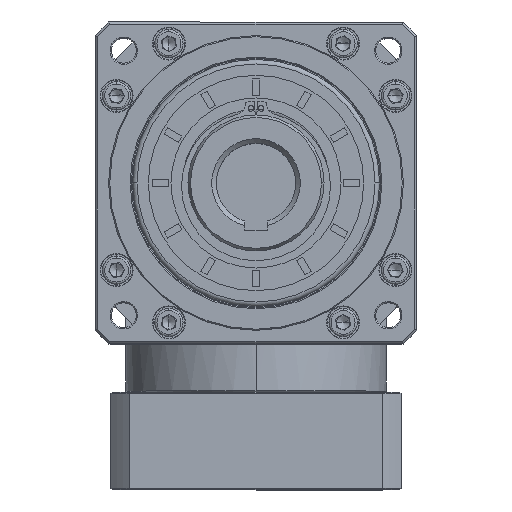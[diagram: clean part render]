
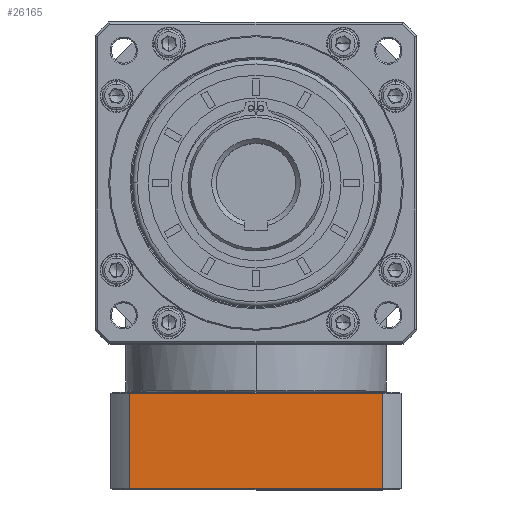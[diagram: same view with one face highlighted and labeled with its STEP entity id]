
A CAD part, top view. The second image highlights one B-rep face of the part: STEP entity #26165.
In plain terms, the highlighted planar face has unit normal (0, 0, 1).
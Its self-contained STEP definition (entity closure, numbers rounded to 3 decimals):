
#3365 = DIRECTION ( 'NONE',  ( 1., 0., 0. ) ) ;
#4269 = CARTESIAN_POINT ( 'NONE',  ( -143.052, 89.914, 7.874 ) ) ;
#5513 = CARTESIAN_POINT ( 'NONE',  ( -254.926, -205., 7.874 ) ) ;
#6856 = EDGE_LOOP ( 'NONE', ( #125859, #135738, #167875, #143111 ) ) ;
#14037 = VECTOR ( 'NONE', #89974, 1000. ) ;
#15776 = CARTESIAN_POINT ( 'NONE',  ( -143.052, -163., 7.874 ) ) ;
#18536 = DIRECTION ( 'NONE',  ( 0., -1., 0. ) ) ;
#20797 = CARTESIAN_POINT ( 'NONE',  ( -262.989, -205.5, 7.874 ) ) ;
#26165 = ADVANCED_FACE ( 'NONE', ( #131500 ), #103034, .F. ) ;
#34303 = EDGE_CURVE ( 'NONE', #124535, #149496, #163259, .T. ) ;
#34443 = VECTOR ( 'NONE', #160704, 1000. ) ;
#44335 = CARTESIAN_POINT ( 'NONE',  ( -143.052, -205., 7.874 ) ) ;
#48579 = EDGE_CURVE ( 'NONE', #147749, #129347, #128896, .T. ) ;
#53291 = EDGE_CURVE ( 'NONE', #149496, #147749, #143114, .T. ) ;
#63232 = EDGE_CURVE ( 'NONE', #129347, #124535, #156015, .T. ) ;
#68646 = VECTOR ( 'NONE', #18536, 1000. ) ;
#71235 = CARTESIAN_POINT ( 'NONE',  ( -262.989, -163., 7.874 ) ) ;
#74990 = DIRECTION ( 'NONE',  ( 0., 0., -1. ) ) ;
#78572 = CARTESIAN_POINT ( 'NONE',  ( -254.926, -205.5, 7.874 ) ) ;
#89974 = DIRECTION ( 'NONE',  ( -1., 0., 0. ) ) ;
#92643 = VECTOR ( 'NONE', #3365, 1000. ) ;
#96527 = AXIS2_PLACEMENT_3D ( 'NONE', #20797, #74990, #142905 ) ;
#103034 = PLANE ( 'NONE',  #96527 ) ;
#124535 = VERTEX_POINT ( 'NONE', #44335 ) ;
#125859 = ORIENTED_EDGE ( 'NONE', *, *, #63232, .F. ) ;
#126337 = CARTESIAN_POINT ( 'NONE',  ( -262.989, -205., 7.874 ) ) ;
#128896 = LINE ( 'NONE', #71235, #92643 ) ;
#129347 = VERTEX_POINT ( 'NONE', #15776 ) ;
#131500 = FACE_OUTER_BOUND ( 'NONE', #6856, .T. ) ;
#135738 = ORIENTED_EDGE ( 'NONE', *, *, #48579, .F. ) ;
#135998 = CARTESIAN_POINT ( 'NONE',  ( -254.926, -163., 7.874 ) ) ;
#142905 = DIRECTION ( 'NONE',  ( -1., 0., 0. ) ) ;
#143111 = ORIENTED_EDGE ( 'NONE', *, *, #34303, .F. ) ;
#143114 = LINE ( 'NONE', #78572, #34443 ) ;
#147749 = VERTEX_POINT ( 'NONE', #135998 ) ;
#149496 = VERTEX_POINT ( 'NONE', #5513 ) ;
#156015 = LINE ( 'NONE', #4269, #68646 ) ;
#160704 = DIRECTION ( 'NONE',  ( 0., 1., 0. ) ) ;
#163259 = LINE ( 'NONE', #126337, #14037 ) ;
#167875 = ORIENTED_EDGE ( 'NONE', *, *, #53291, .F. ) ;
